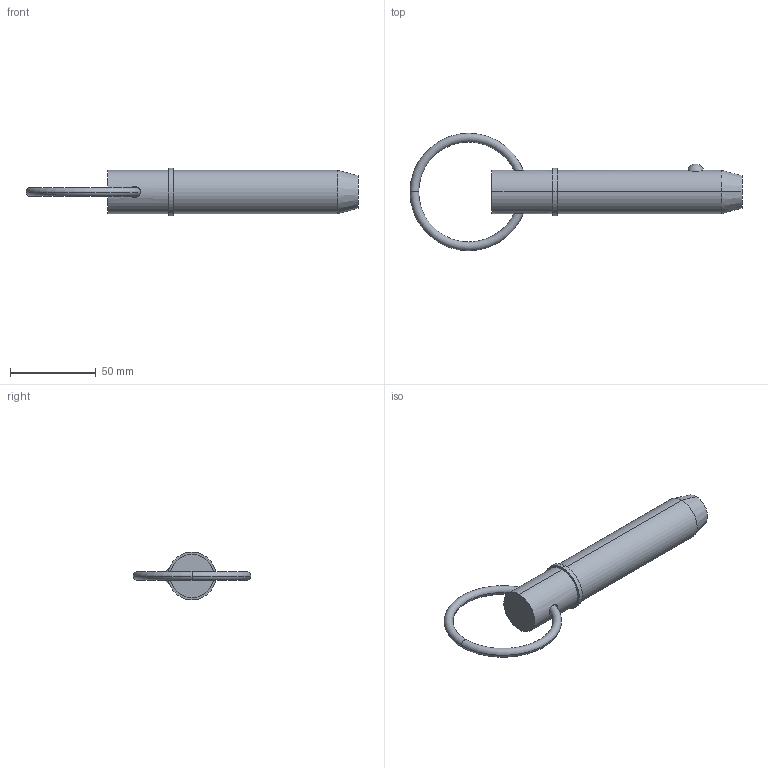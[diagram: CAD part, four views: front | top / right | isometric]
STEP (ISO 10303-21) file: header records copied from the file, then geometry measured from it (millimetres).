
FILE_DESCRIPTION (( 'STEP AP203' ), '1' );
FILE_NAME ('33016.W1030.step', '2024-11-07T11:18:26', ( '' ), ( '' ), 'SwSTEP 2.0', 'SolidWorks 2019', '' );
FILE_SCHEMA (( 'CONFIG_CONTROL_DESIGN' ));
Length unit declared in the file: millimetre
Products named in the file (3): Part1_33016.W1030; 33016.W1030; Part2_33016.W1030
Assembly tree (2 placements, depth 2):
  33016.W1030
    Part1_33016.W1030
    Part2_33016.W1030
Bounding box: 193.82 x 68.58 x 27.94 mm (x, y, z)
Volume: 76282.3 mm3; surface area: 16266.9 mm2
Topology: 2 solids, 2 shells, 22 faces, 43 edges, 26 vertices
Faces by surface type: torus 8, cylinder 6, plane 4, sphere 2, cone 2
Entity records: 1075 total; most frequent: CARTESIAN_POINT 298, DIRECTION 120, ORIENTED_EDGE 86, AXIS2_PLACEMENT_3D 56, EDGE_CURVE 43, CIRCLE 29, EDGE_LOOP 27, VERTEX_POINT 26
